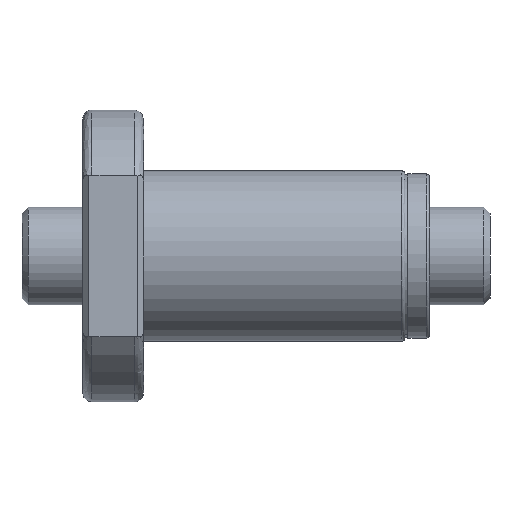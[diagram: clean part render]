
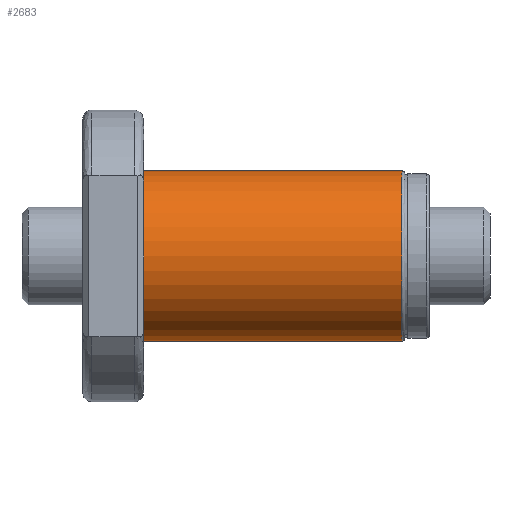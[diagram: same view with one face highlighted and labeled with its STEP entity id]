
A CAD part, front view. The second image highlights one B-rep face of the part: STEP entity #2683.
In plain terms, the highlighted cylindrical face has radius 14 mm (diameter 28 mm), a partial arc.
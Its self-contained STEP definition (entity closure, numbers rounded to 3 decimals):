
#96 = CARTESIAN_POINT ( 'NONE',  ( 10., 0., -14. ) ) ;
#198 = CARTESIAN_POINT ( 'NONE',  ( 0., 0., 0. ) ) ;
#503 = CARTESIAN_POINT ( 'NONE',  ( 10., 0., 0. ) ) ;
#548 = VERTEX_POINT ( 'NONE', #6740 ) ;
#875 = CARTESIAN_POINT ( 'NONE',  ( 52.5, 0., 0. ) ) ;
#950 = DIRECTION ( 'NONE',  ( 0., 0., 1. ) ) ;
#1067 = VERTEX_POINT ( 'NONE', #5658 ) ;
#1245 = AXIS2_PLACEMENT_3D ( 'NONE', #503, #5143, #2188 ) ;
#1620 = FACE_OUTER_BOUND ( 'NONE', #2758, .T. ) ;
#1951 = EDGE_CURVE ( 'NONE', #7176, #7052, #3646, .T. ) ;
#2023 = DIRECTION ( 'NONE',  ( -1., 0., 0. ) ) ;
#2055 = ORIENTED_EDGE ( 'NONE', *, *, #4075, .T. ) ;
#2188 = DIRECTION ( 'NONE',  ( 0., 0., 1. ) ) ;
#2225 = CIRCLE ( 'NONE', #4380, 14. ) ;
#2682 = LINE ( 'NONE', #3122, #4270 ) ;
#2683 = ADVANCED_FACE ( 'NONE', ( #1620 ), #5435, .T. ) ;
#2758 = EDGE_LOOP ( 'NONE', ( #5896, #2055, #3693, #5285 ) ) ;
#2886 = CARTESIAN_POINT ( 'NONE',  ( 0., 0., 14. ) ) ;
#3033 = AXIS2_PLACEMENT_3D ( 'NONE', #198, #3735, #4320 ) ;
#3122 = CARTESIAN_POINT ( 'NONE',  ( 0., 0., -14. ) ) ;
#3253 = EDGE_CURVE ( 'NONE', #1067, #7052, #2682, .T. ) ;
#3319 = LINE ( 'NONE', #2886, #4256 ) ;
#3646 = CIRCLE ( 'NONE', #1245, 14. ) ;
#3693 = ORIENTED_EDGE ( 'NONE', *, *, #4296, .T. ) ;
#3735 = DIRECTION ( 'NONE',  ( -1., 0., 0. ) ) ;
#4075 = EDGE_CURVE ( 'NONE', #1067, #548, #2225, .T. ) ;
#4141 = DIRECTION ( 'NONE',  ( -1., 0., 0. ) ) ;
#4256 = VECTOR ( 'NONE', #4141, 1000. ) ;
#4270 = VECTOR ( 'NONE', #2023, 1000. ) ;
#4296 = EDGE_CURVE ( 'NONE', #548, #7176, #3319, .T. ) ;
#4320 = DIRECTION ( 'NONE',  ( 0., 0., 1. ) ) ;
#4380 = AXIS2_PLACEMENT_3D ( 'NONE', #875, #6124, #950 ) ;
#5143 = DIRECTION ( 'NONE',  ( 1., 0., 0. ) ) ;
#5285 = ORIENTED_EDGE ( 'NONE', *, *, #1951, .T. ) ;
#5435 = CYLINDRICAL_SURFACE ( 'NONE', #3033, 14. ) ;
#5658 = CARTESIAN_POINT ( 'NONE',  ( 52.5, 0., -14. ) ) ;
#5662 = CARTESIAN_POINT ( 'NONE',  ( 10., 0., 14. ) ) ;
#5896 = ORIENTED_EDGE ( 'NONE', *, *, #3253, .F. ) ;
#6124 = DIRECTION ( 'NONE',  ( -1., 0., 0. ) ) ;
#6740 = CARTESIAN_POINT ( 'NONE',  ( 52.5, 0., 14. ) ) ;
#7052 = VERTEX_POINT ( 'NONE', #96 ) ;
#7176 = VERTEX_POINT ( 'NONE', #5662 ) ;
